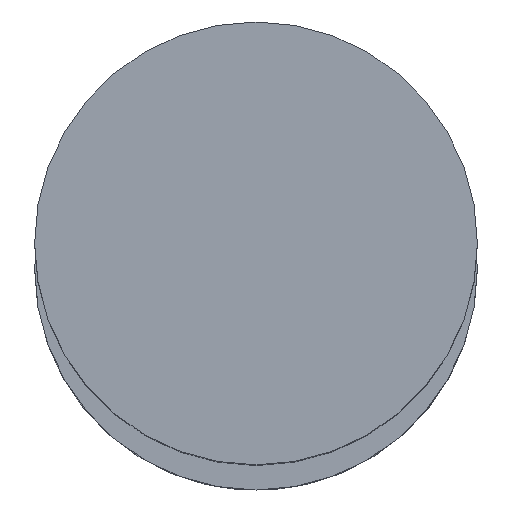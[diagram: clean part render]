
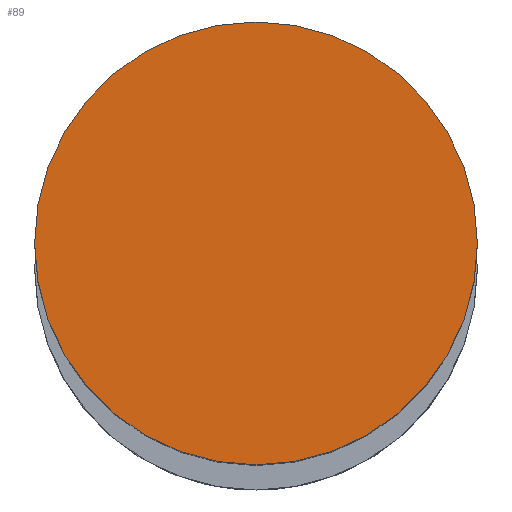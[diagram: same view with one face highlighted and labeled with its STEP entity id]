
A CAD part, top view. The second image highlights one B-rep face of the part: STEP entity #89.
In plain terms, the highlighted planar face has unit normal (0, 0, 1).
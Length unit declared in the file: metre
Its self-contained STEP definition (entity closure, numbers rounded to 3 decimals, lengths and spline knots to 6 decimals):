
#89=ADVANCED_FACE('0:129',(#177),#178,.T.);
#177=FACE_OUTER_BOUND('',#269,.T.);
#178=PLANE('',#270);
#269=EDGE_LOOP('',(#430,#431));
#270=AXIS2_PLACEMENT_3D('',#432,#433,#434);
#430=ORIENTED_EDGE('',*,*,#503,.F.);
#431=ORIENTED_EDGE('',*,*,#549,.F.);
#432=CARTESIAN_POINT('',(0.,0.,0.449));
#433=DIRECTION('',(0.0,0.0,1.0));
#434=DIRECTION('',(1.0,0.0,0.0));
#503=EDGE_CURVE('13:581',#587,#583,#589,.F.);
#549=EDGE_CURVE('',#583,#587,#656,.F.);
#583=VERTEX_POINT('',#707);
#587=VERTEX_POINT('',#712);
#589=CIRCLE('',#715,0.008);
#656=CIRCLE('',#796,0.008);
#707=CARTESIAN_POINT('',(0.00789,0.000133,0.449));
#712=CARTESIAN_POINT('',(-0.00811,0.000133,0.449));
#715=AXIS2_PLACEMENT_3D('',#856,#857,#858);
#796=AXIS2_PLACEMENT_3D('',#924,#925,#926);
#856=CARTESIAN_POINT('',(-0.00011,0.000133,0.449));
#857=DIRECTION('',(0.0,0.0,1.0));
#858=DIRECTION('',(1.0,0.0,0.0));
#924=CARTESIAN_POINT('',(-0.00011,0.000133,0.449));
#925=DIRECTION('',(0.0,0.0,1.0));
#926=DIRECTION('',(1.0,0.0,0.0));
